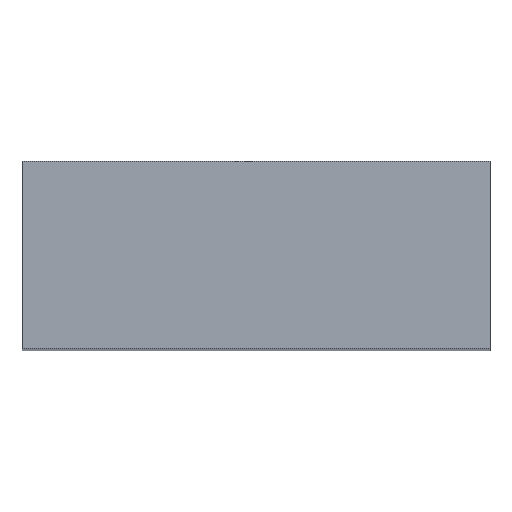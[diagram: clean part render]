
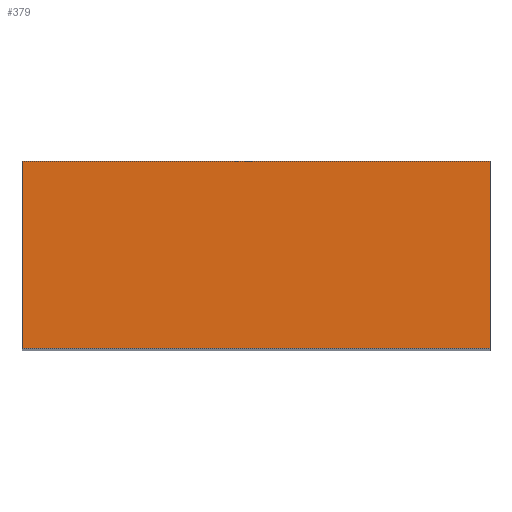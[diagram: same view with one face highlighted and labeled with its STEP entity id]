
A CAD part, top view. The second image highlights one B-rep face of the part: STEP entity #379.
In plain terms, the highlighted planar face has unit normal (0, 0, 1).
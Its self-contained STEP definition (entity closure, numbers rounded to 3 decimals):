
#65 = VERTEX_POINT('',#66);
#66 = CARTESIAN_POINT('',(-1.,-0.4,3.));
#73 = PLANE('',#74);
#74 = AXIS2_PLACEMENT_3D('',#75,#76,#77);
#75 = CARTESIAN_POINT('',(-1.,-0.4,-3.));
#76 = DIRECTION('',(1.,0.,0.));
#77 = DIRECTION('',(0.,0.,1.));
#85 = PLANE('',#86);
#86 = AXIS2_PLACEMENT_3D('',#87,#88,#89);
#87 = CARTESIAN_POINT('',(-1.,-0.4,-3.));
#88 = DIRECTION('',(0.,1.,0.));
#89 = DIRECTION('',(0.,-0.,1.));
#126 = VERTEX_POINT('',#127);
#127 = CARTESIAN_POINT('',(-1.,0.4,3.));
#141 = PLANE('',#142);
#142 = AXIS2_PLACEMENT_3D('',#143,#144,#145);
#143 = CARTESIAN_POINT('',(-1.,0.4,-3.));
#144 = DIRECTION('',(0.,1.,0.));
#145 = DIRECTION('',(0.,-0.,1.));
#153 = EDGE_CURVE('',#65,#126,#154,.T.);
#154 = SURFACE_CURVE('',#155,(#159,#166),.PCURVE_S1.);
#155 = LINE('',#156,#157);
#156 = CARTESIAN_POINT('',(-1.,-0.4,3.));
#157 = VECTOR('',#158,1.);
#158 = DIRECTION('',(0.,1.,0.));
#159 = PCURVE('',#73,#160);
#160 = DEFINITIONAL_REPRESENTATION('',(#161),#165);
#161 = LINE('',#162,#163);
#162 = CARTESIAN_POINT('',(6.,0.));
#163 = VECTOR('',#164,1.);
#164 = DIRECTION('',(0.,-1.));
#165 = ( GEOMETRIC_REPRESENTATION_CONTEXT(2) 
PARAMETRIC_REPRESENTATION_CONTEXT() REPRESENTATION_CONTEXT('2D SPACE',''
  ) );
#166 = PCURVE('',#167,#172);
#167 = PLANE('',#168);
#168 = AXIS2_PLACEMENT_3D('',#169,#170,#171);
#169 = CARTESIAN_POINT('',(-1.,-0.4,3.));
#170 = DIRECTION('',(0.,0.,1.));
#171 = DIRECTION('',(1.,0.,-0.));
#172 = DEFINITIONAL_REPRESENTATION('',(#173),#177);
#173 = LINE('',#174,#175);
#174 = CARTESIAN_POINT('',(0.,0.));
#175 = VECTOR('',#176,1.);
#176 = DIRECTION('',(0.,1.));
#177 = ( GEOMETRIC_REPRESENTATION_CONTEXT(2) 
PARAMETRIC_REPRESENTATION_CONTEXT() REPRESENTATION_CONTEXT('2D SPACE',''
  ) );
#185 = VERTEX_POINT('',#186);
#186 = CARTESIAN_POINT('',(1.,-0.4,3.));
#193 = PLANE('',#194);
#194 = AXIS2_PLACEMENT_3D('',#195,#196,#197);
#195 = CARTESIAN_POINT('',(1.,-0.4,-3.));
#196 = DIRECTION('',(1.,0.,0.));
#197 = DIRECTION('',(0.,0.,1.));
#236 = VERTEX_POINT('',#237);
#237 = CARTESIAN_POINT('',(1.,0.4,3.));
#258 = EDGE_CURVE('',#185,#236,#259,.T.);
#259 = SURFACE_CURVE('',#260,(#264,#271),.PCURVE_S1.);
#260 = LINE('',#261,#262);
#261 = CARTESIAN_POINT('',(1.,-0.4,3.));
#262 = VECTOR('',#263,1.);
#263 = DIRECTION('',(0.,1.,0.));
#264 = PCURVE('',#193,#265);
#265 = DEFINITIONAL_REPRESENTATION('',(#266),#270);
#266 = LINE('',#267,#268);
#267 = CARTESIAN_POINT('',(6.,0.));
#268 = VECTOR('',#269,1.);
#269 = DIRECTION('',(0.,-1.));
#270 = ( GEOMETRIC_REPRESENTATION_CONTEXT(2) 
PARAMETRIC_REPRESENTATION_CONTEXT() REPRESENTATION_CONTEXT('2D SPACE',''
  ) );
#271 = PCURVE('',#167,#272);
#272 = DEFINITIONAL_REPRESENTATION('',(#273),#277);
#273 = LINE('',#274,#275);
#274 = CARTESIAN_POINT('',(2.,0.));
#275 = VECTOR('',#276,1.);
#276 = DIRECTION('',(0.,1.));
#277 = ( GEOMETRIC_REPRESENTATION_CONTEXT(2) 
PARAMETRIC_REPRESENTATION_CONTEXT() REPRESENTATION_CONTEXT('2D SPACE',''
  ) );
#304 = EDGE_CURVE('',#65,#185,#305,.T.);
#305 = SURFACE_CURVE('',#306,(#310,#317),.PCURVE_S1.);
#306 = LINE('',#307,#308);
#307 = CARTESIAN_POINT('',(-1.,-0.4,3.));
#308 = VECTOR('',#309,1.);
#309 = DIRECTION('',(1.,0.,0.));
#310 = PCURVE('',#85,#311);
#311 = DEFINITIONAL_REPRESENTATION('',(#312),#316);
#312 = LINE('',#313,#314);
#313 = CARTESIAN_POINT('',(6.,0.));
#314 = VECTOR('',#315,1.);
#315 = DIRECTION('',(0.,1.));
#316 = ( GEOMETRIC_REPRESENTATION_CONTEXT(2) 
PARAMETRIC_REPRESENTATION_CONTEXT() REPRESENTATION_CONTEXT('2D SPACE',''
  ) );
#317 = PCURVE('',#167,#318);
#318 = DEFINITIONAL_REPRESENTATION('',(#319),#323);
#319 = LINE('',#320,#321);
#320 = CARTESIAN_POINT('',(0.,0.));
#321 = VECTOR('',#322,1.);
#322 = DIRECTION('',(1.,0.));
#323 = ( GEOMETRIC_REPRESENTATION_CONTEXT(2) 
PARAMETRIC_REPRESENTATION_CONTEXT() REPRESENTATION_CONTEXT('2D SPACE',''
  ) );
#351 = EDGE_CURVE('',#126,#236,#352,.T.);
#352 = SURFACE_CURVE('',#353,(#357,#364),.PCURVE_S1.);
#353 = LINE('',#354,#355);
#354 = CARTESIAN_POINT('',(-1.,0.4,3.));
#355 = VECTOR('',#356,1.);
#356 = DIRECTION('',(1.,0.,0.));
#357 = PCURVE('',#141,#358);
#358 = DEFINITIONAL_REPRESENTATION('',(#359),#363);
#359 = LINE('',#360,#361);
#360 = CARTESIAN_POINT('',(6.,0.));
#361 = VECTOR('',#362,1.);
#362 = DIRECTION('',(0.,1.));
#363 = ( GEOMETRIC_REPRESENTATION_CONTEXT(2) 
PARAMETRIC_REPRESENTATION_CONTEXT() REPRESENTATION_CONTEXT('2D SPACE',''
  ) );
#364 = PCURVE('',#167,#365);
#365 = DEFINITIONAL_REPRESENTATION('',(#366),#370);
#366 = LINE('',#367,#368);
#367 = CARTESIAN_POINT('',(0.,0.8));
#368 = VECTOR('',#369,1.);
#369 = DIRECTION('',(1.,0.));
#370 = ( GEOMETRIC_REPRESENTATION_CONTEXT(2) 
PARAMETRIC_REPRESENTATION_CONTEXT() REPRESENTATION_CONTEXT('2D SPACE',''
  ) );
#379 = ADVANCED_FACE('',(#380),#167,.T.);
#380 = FACE_BOUND('',#381,.T.);
#381 = EDGE_LOOP('',(#382,#383,#384,#385));
#382 = ORIENTED_EDGE('',*,*,#153,.F.);
#383 = ORIENTED_EDGE('',*,*,#304,.T.);
#384 = ORIENTED_EDGE('',*,*,#258,.T.);
#385 = ORIENTED_EDGE('',*,*,#351,.F.);
